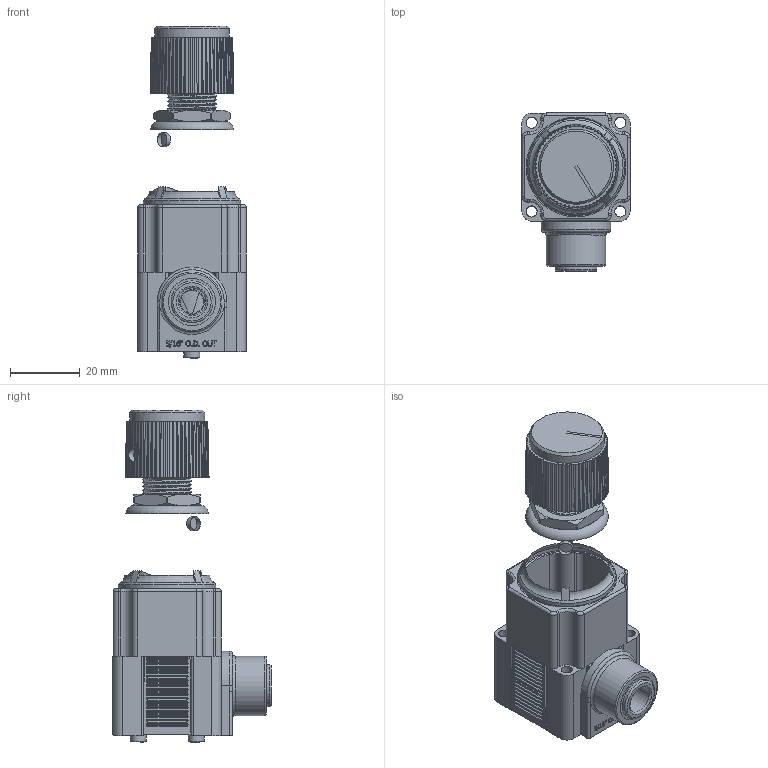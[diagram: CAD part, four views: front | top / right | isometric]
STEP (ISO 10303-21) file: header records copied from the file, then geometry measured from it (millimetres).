
FILE_DESCRIPTION(/* description */ (''),/* implementation_level */ '2;1');
FILE_NAME(/* name */ 'K:\Normteile INVENTOR\Air-Logic\Regulators\R6000\R 6___ 6 Push-In Fitting for 5''16 O.D. Tube Out.igs.ipt.stp',/* time_stamp */ '2020-05-27T10:57:41+02:00',/* author */ ('Paul'),/* organization */ (''),/* preprocessor_version */ 'ST-DEVELOPER v18',/* originating_system */ 'Autodesk Inventor 2020',/* authorisation */ '');
FILE_SCHEMA (('AUTOMOTIVE_DESIGN { 1 0 10303 214 3 1 1 }'));
Length unit declared in the file: inch
Products named in the file (1): R 6___ 6 Push-In Fitting for 5'16 O.D. Tube Out.igs
Bounding box: 31.19 x 45.41 x 95.02 mm (x, y, z)
Volume: 59079.1 mm3; surface area: 18862.2 mm2
Topology: 1 solids, 1 shells, 1113 faces, 2888 edges, 1868 vertices
Faces by surface type: plane 540, cylinder 352, bspline 102, cone 83, torus 36
Full cylindrical faces by diameter (mm): 1.194 x1, 2.032 x1, 3.124 x2, 3.175 x8, 3.988 x1, 4.064 x1, 4.521 x2, 7.061 x1, 8.001 x1, 8.382 x2, 9.169 x1, 9.398 x1, 11.972 x1, 12.014 x1, 12.903 x1, 13.513 x1, 17.094 x1, 19.406 x1, 21.476 x1, 27.94 x1, 28.575 x1
Entity records: 40981 total; most frequent: CARTESIAN_POINT 12467, ORIENTED_EDGE 5776, DIRECTION 5702, EDGE_CURVE 2888, AXIS2_PLACEMENT_3D 2150, VERTEX_POINT 1868, LINE 1402, VECTOR 1402
